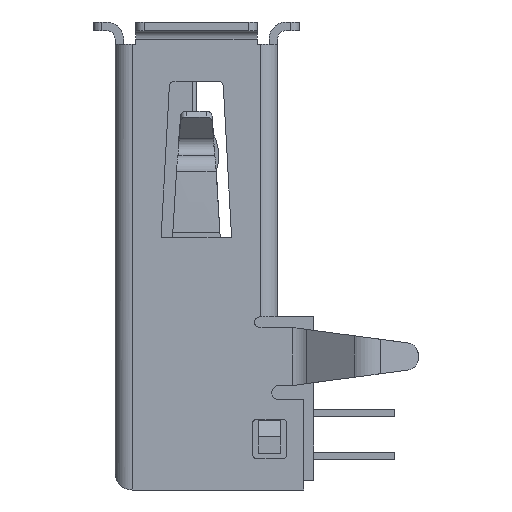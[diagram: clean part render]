
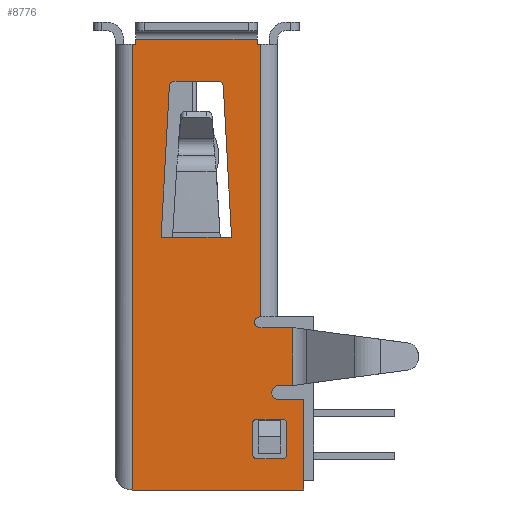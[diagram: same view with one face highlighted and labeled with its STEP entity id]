
A CAD part, left-side view. The second image highlights one B-rep face of the part: STEP entity #8776.
In plain terms, the highlighted planar face has unit normal (-1, 0, 0).
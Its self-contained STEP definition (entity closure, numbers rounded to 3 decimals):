
#459=DIRECTION('',(0.,1.,0.));
#460=VECTOR('',#459,0.401);
#461=CARTESIAN_POINT('',(-6.55,-1.241,-7.58));
#462=LINE('',#461,#460);
#463=DIRECTION('',(0.,-0.054,-0.999));
#464=VECTOR('',#463,5.319);
#465=CARTESIAN_POINT('',(-6.55,-0.951,-2.269));
#466=LINE('',#465,#464);
#467=CARTESIAN_POINT('',(-6.55,-0.751,-2.28));
#468=DIRECTION('',(1.,0.,0.));
#469=DIRECTION('',(0.,0.,1.));
#470=AXIS2_PLACEMENT_3D('',#467,#468,#469);
#472=DIRECTION('',(0.,-1.,0.));
#473=VECTOR('',#472,1.502);
#474=CARTESIAN_POINT('',(-6.55,0.751,-2.08));
#475=LINE('',#474,#473);
#476=CARTESIAN_POINT('',(-6.55,0.751,-2.28));
#477=DIRECTION('',(1.,0.,0.));
#478=DIRECTION('',(0.,0.999,0.054));
#479=AXIS2_PLACEMENT_3D('',#476,#477,#478);
#481=DIRECTION('',(0.,-0.054,0.999));
#482=VECTOR('',#481,5.319);
#483=CARTESIAN_POINT('',(-6.55,1.241,-7.58));
#484=LINE('',#483,#482);
#485=DIRECTION('',(0.,1.,0.));
#486=VECTOR('',#485,0.401);
#487=CARTESIAN_POINT('',(-6.55,0.84,-7.58));
#488=LINE('',#487,#486);
#489=DIRECTION('',(0.,1.,0.));
#490=VECTOR('',#489,1.68);
#491=CARTESIAN_POINT('',(-6.55,-0.84,-7.58));
#492=LINE('',#491,#490);
#493=CARTESIAN_POINT('',(-6.55,-3.03,-14.13));
#494=DIRECTION('',(-1.,0.,0.));
#495=DIRECTION('',(0.,-1.,0.));
#496=AXIS2_PLACEMENT_3D('',#493,#494,#495);
#498=DIRECTION('',(0.,1.,0.));
#499=VECTOR('',#498,0.9);
#500=CARTESIAN_POINT('',(-6.55,-3.03,-13.98));
#501=LINE('',#500,#499);
#502=CARTESIAN_POINT('',(-6.55,-2.13,-14.13));
#503=DIRECTION('',(-1.,0.,0.));
#504=DIRECTION('',(0.,0.,1.));
#505=AXIS2_PLACEMENT_3D('',#502,#503,#504);
#507=DIRECTION('',(0.,0.,-1.));
#508=VECTOR('',#507,1.1);
#509=CARTESIAN_POINT('',(-6.55,-1.98,-14.13));
#510=LINE('',#509,#508);
#511=CARTESIAN_POINT('',(-6.55,-2.13,-15.23));
#512=DIRECTION('',(-1.,0.,0.));
#513=DIRECTION('',(0.,1.,0.));
#514=AXIS2_PLACEMENT_3D('',#511,#512,#513);
#516=DIRECTION('',(0.,-1.,0.));
#517=VECTOR('',#516,0.9);
#518=CARTESIAN_POINT('',(-6.55,-2.13,-15.38));
#519=LINE('',#518,#517);
#520=CARTESIAN_POINT('',(-6.55,-3.03,-15.23));
#521=DIRECTION('',(-1.,0.,0.));
#522=DIRECTION('',(0.,0.,-1.));
#523=AXIS2_PLACEMENT_3D('',#520,#521,#522);
#525=DIRECTION('',(0.,0.,1.));
#526=VECTOR('',#525,1.1);
#527=CARTESIAN_POINT('',(-6.55,-3.18,-15.23));
#528=LINE('',#527,#526);
#529=DIRECTION('',(0.,0.,-1.));
#530=VECTOR('',#529,15.7);
#531=CARTESIAN_POINT('',(-6.55,2.26,-0.78));
#532=LINE('',#531,#530);
#533=DIRECTION('',(0.,1.,0.));
#534=VECTOR('',#533,0.12);
#535=CARTESIAN_POINT('',(-6.55,2.14,-0.78));
#536=LINE('',#535,#534);
#537=DIRECTION('',(0.,0.,-1.));
#538=VECTOR('',#537,0.18);
#539=CARTESIAN_POINT('',(-6.55,2.14,-0.6));
#540=LINE('',#539,#538);
#541=DIRECTION('',(0.,-1.,0.));
#542=VECTOR('',#541,4.28);
#543=CARTESIAN_POINT('',(-6.55,2.14,-0.6));
#544=LINE('',#543,#542);
#545=DIRECTION('',(0.,0.,-1.));
#546=VECTOR('',#545,0.18);
#547=CARTESIAN_POINT('',(-6.55,-2.14,-0.6));
#548=LINE('',#547,#546);
#549=DIRECTION('',(0.,1.,0.));
#550=VECTOR('',#549,0.12);
#551=CARTESIAN_POINT('',(-6.55,-2.26,-0.78));
#552=LINE('',#551,#550);
#553=DIRECTION('',(0.,0.,1.));
#554=VECTOR('',#553,9.6);
#555=CARTESIAN_POINT('',(-6.55,-2.26,-10.38));
#556=LINE('',#555,#554);
#557=DIRECTION('',(0.,1.,0.));
#558=VECTOR('',#557,0.02);
#559=CARTESIAN_POINT('',(-6.55,-2.26,-10.38));
#560=LINE('',#559,#558);
#561=CARTESIAN_POINT('',(-6.55,-2.24,-10.57));
#562=DIRECTION('',(-1.,0.,0.));
#563=DIRECTION('',(0.,0.,1.));
#564=AXIS2_PLACEMENT_3D('',#561,#562,#563);
#566=DIRECTION('',(0.,0.,1.));
#567=VECTOR('',#566,2.04);
#568=CARTESIAN_POINT('',(-6.55,-3.4,-12.8));
#569=LINE('',#568,#567);
#570=DIRECTION('',(0.,1.,0.));
#571=VECTOR('',#570,0.5);
#572=CARTESIAN_POINT('',(-6.55,-3.4,-12.8));
#573=LINE('',#572,#571);
#574=CARTESIAN_POINT('',(-6.55,-2.9,-13.05));
#575=DIRECTION('',(-1.,0.,0.));
#576=DIRECTION('',(0.,0.,1.));
#577=AXIS2_PLACEMENT_3D('',#574,#575,#576);
#579=DIRECTION('',(0.,1.,0.));
#580=VECTOR('',#579,0.88);
#581=CARTESIAN_POINT('',(-6.55,-3.78,-13.3));
#582=LINE('',#581,#580);
#583=DIRECTION('',(0.,0.,-1.));
#584=VECTOR('',#583,3.18);
#585=CARTESIAN_POINT('',(-6.55,-3.78,-13.3));
#586=LINE('',#585,#584);
#2824=CARTESIAN_POINT('',(-6.55,-3.4,-10.76));
#2830=CARTESIAN_POINT('',(-6.55,-3.4,-12.8));
#2836=DIRECTION('',(0.,1.,0.));
#2837=VECTOR('',#2836,1.16);
#2838=CARTESIAN_POINT('',(-6.55,-3.4,-10.76));
#2839=LINE('',#2838,#2837);
#3847=DIRECTION('',(0.,1.,0.));
#3848=VECTOR('',#3847,6.04);
#3849=CARTESIAN_POINT('',(-6.55,-3.78,-16.48));
#3850=LINE('',#3849,#3848);
#6837=CARTESIAN_POINT('',(-6.55,2.14,-0.78));
#6838=VERTEX_POINT('',#6837);
#6839=CARTESIAN_POINT('',(-6.55,-2.14,-0.78));
#6840=VERTEX_POINT('',#6839);
#6927=CARTESIAN_POINT('',(-6.55,2.14,-0.6));
#6928=VERTEX_POINT('',#6927);
#6929=CARTESIAN_POINT('',(-6.55,-2.14,-0.6));
#6930=VERTEX_POINT('',#6929);
#6967=CARTESIAN_POINT('',(-6.55,1.241,-7.58));
#6968=CARTESIAN_POINT('',(-6.55,0.951,-2.269));
#6969=VERTEX_POINT('',#6967);
#6970=VERTEX_POINT('',#6968);
#6971=CARTESIAN_POINT('',(-6.55,0.751,-2.08));
#6972=VERTEX_POINT('',#6971);
#6973=CARTESIAN_POINT('',(-6.55,-0.751,-2.08));
#6974=VERTEX_POINT('',#6973);
#6975=CARTESIAN_POINT('',(-6.55,-0.951,-2.269));
#6976=CARTESIAN_POINT('',(-6.55,-1.241,-7.58));
#6977=VERTEX_POINT('',#6975);
#6978=VERTEX_POINT('',#6976);
#7047=CARTESIAN_POINT('',(-6.55,-0.84,-7.58));
#7048=VERTEX_POINT('',#7047);
#7049=CARTESIAN_POINT('',(-6.55,0.84,-7.58));
#7050=VERTEX_POINT('',#7049);
#7091=CARTESIAN_POINT('',(-6.55,2.26,-0.78));
#7092=VERTEX_POINT('',#7091);
#7093=CARTESIAN_POINT('',(-6.55,2.26,-16.48));
#7094=VERTEX_POINT('',#7093);
#7095=CARTESIAN_POINT('',(-6.55,-2.26,-0.78));
#7097=VERTEX_POINT('',#7095);
#7101=CARTESIAN_POINT('',(-6.55,-2.26,-10.38));
#7102=VERTEX_POINT('',#7101);
#7143=CARTESIAN_POINT('',(-6.55,-3.18,-14.13));
#7144=CARTESIAN_POINT('',(-6.55,-3.03,-13.98));
#7145=VERTEX_POINT('',#7143);
#7146=VERTEX_POINT('',#7144);
#7147=CARTESIAN_POINT('',(-6.55,-2.13,-13.98));
#7148=VERTEX_POINT('',#7147);
#7149=CARTESIAN_POINT('',(-6.55,-1.98,-14.13));
#7150=VERTEX_POINT('',#7149);
#7151=CARTESIAN_POINT('',(-6.55,-1.98,-15.23));
#7152=VERTEX_POINT('',#7151);
#7153=CARTESIAN_POINT('',(-6.55,-2.13,-15.38));
#7154=VERTEX_POINT('',#7153);
#7155=CARTESIAN_POINT('',(-6.55,-3.03,-15.38));
#7156=VERTEX_POINT('',#7155);
#7157=CARTESIAN_POINT('',(-6.55,-3.18,-15.23));
#7158=VERTEX_POINT('',#7157);
#7377=CARTESIAN_POINT('',(-6.55,-3.78,-16.48));
#7379=VERTEX_POINT('',#7377);
#7735=VERTEX_POINT('',#2824);
#7737=VERTEX_POINT('',#2830);
#8028=CARTESIAN_POINT('',(-6.55,-2.9,-12.8));
#8029=CARTESIAN_POINT('',(-6.55,-2.9,-13.3));
#8030=VERTEX_POINT('',#8028);
#8031=VERTEX_POINT('',#8029);
#8032=CARTESIAN_POINT('',(-6.55,-3.78,-13.3));
#8033=VERTEX_POINT('',#8032);
#8086=CARTESIAN_POINT('',(-6.55,-2.24,-10.38));
#8087=CARTESIAN_POINT('',(-6.55,-2.24,-10.76));
#8088=VERTEX_POINT('',#8086);
#8089=VERTEX_POINT('',#8087);
#8704=CARTESIAN_POINT('',(-6.55,0.,0.));
#8705=DIRECTION('',(1.,0.,0.));
#8706=DIRECTION('',(0.,0.,-1.));
#8707=AXIS2_PLACEMENT_3D('',#8704,#8705,#8706);
#8708=PLANE('',#8707);
#8709=ORIENTED_EDGE('',*,*,#8697,.F.);
#8710=ORIENTED_EDGE('',*,*,#8619,.F.);
#8712=ORIENTED_EDGE('',*,*,#8711,.F.);
#8714=ORIENTED_EDGE('',*,*,#8713,.T.);
#8716=ORIENTED_EDGE('',*,*,#8715,.T.);
#8717=ORIENTED_EDGE('',*,*,#8631,.F.);
#8719=ORIENTED_EDGE('',*,*,#8718,.F.);
#8721=ORIENTED_EDGE('',*,*,#8720,.T.);
#8723=ORIENTED_EDGE('',*,*,#8722,.T.);
#8725=ORIENTED_EDGE('',*,*,#8724,.F.);
#8727=ORIENTED_EDGE('',*,*,#8726,.F.);
#8729=ORIENTED_EDGE('',*,*,#8728,.T.);
#8731=ORIENTED_EDGE('',*,*,#8730,.T.);
#8733=ORIENTED_EDGE('',*,*,#8732,.F.);
#8735=ORIENTED_EDGE('',*,*,#8734,.T.);
#8737=ORIENTED_EDGE('',*,*,#8736,.T.);
#8738=EDGE_LOOP('',(#8709,#8710,#8712,#8714,#8716,#8717,#8719,#8721,#8723,#8725,
#8727,#8729,#8731,#8733,#8735,#8737));
#8739=FACE_OUTER_BOUND('',#8738,.F.);
#8741=ORIENTED_EDGE('',*,*,#8740,.T.);
#8743=ORIENTED_EDGE('',*,*,#8742,.T.);
#8745=ORIENTED_EDGE('',*,*,#8744,.T.);
#8747=ORIENTED_EDGE('',*,*,#8746,.T.);
#8749=ORIENTED_EDGE('',*,*,#8748,.T.);
#8751=ORIENTED_EDGE('',*,*,#8750,.T.);
#8753=ORIENTED_EDGE('',*,*,#8752,.T.);
#8755=ORIENTED_EDGE('',*,*,#8754,.T.);
#8756=EDGE_LOOP('',(#8741,#8743,#8745,#8747,#8749,#8751,#8753,#8755));
#8757=FACE_BOUND('',#8756,.F.);
#8759=ORIENTED_EDGE('',*,*,#8758,.F.);
#8761=ORIENTED_EDGE('',*,*,#8760,.F.);
#8763=ORIENTED_EDGE('',*,*,#8762,.F.);
#8765=ORIENTED_EDGE('',*,*,#8764,.F.);
#8767=ORIENTED_EDGE('',*,*,#8766,.F.);
#8769=ORIENTED_EDGE('',*,*,#8768,.F.);
#8771=ORIENTED_EDGE('',*,*,#8770,.F.);
#8773=ORIENTED_EDGE('',*,*,#8772,.F.);
#8774=EDGE_LOOP('',(#8759,#8761,#8763,#8765,#8767,#8769,#8771,#8773));
#8775=FACE_BOUND('',#8774,.F.);
#471=CIRCLE('',#470,0.2);
#480=CIRCLE('',#479,0.2);
#497=CIRCLE('',#496,0.15);
#506=CIRCLE('',#505,0.15);
#515=CIRCLE('',#514,0.15);
#524=CIRCLE('',#523,0.15);
#565=CIRCLE('',#564,0.19);
#578=CIRCLE('',#577,0.25);
#8619=EDGE_CURVE('',#6838,#7092,#536,.T.);
#8631=EDGE_CURVE('',#7097,#6840,#552,.T.);
#8697=EDGE_CURVE('',#7092,#7094,#532,.T.);
#8711=EDGE_CURVE('',#6928,#6838,#540,.T.);
#8713=EDGE_CURVE('',#6928,#6930,#544,.T.);
#8715=EDGE_CURVE('',#6930,#6840,#548,.T.);
#8718=EDGE_CURVE('',#7102,#7097,#556,.T.);
#8720=EDGE_CURVE('',#7102,#8088,#560,.T.);
#8722=EDGE_CURVE('',#8088,#8089,#565,.T.);
#8724=EDGE_CURVE('',#7735,#8089,#2839,.T.);
#8726=EDGE_CURVE('',#7737,#7735,#569,.T.);
#8728=EDGE_CURVE('',#7737,#8030,#573,.T.);
#8730=EDGE_CURVE('',#8030,#8031,#578,.T.);
#8732=EDGE_CURVE('',#8033,#8031,#582,.T.);
#8734=EDGE_CURVE('',#8033,#7379,#586,.T.);
#8736=EDGE_CURVE('',#7379,#7094,#3850,.T.);
#8740=EDGE_CURVE('',#7145,#7146,#497,.T.);
#8742=EDGE_CURVE('',#7146,#7148,#501,.T.);
#8744=EDGE_CURVE('',#7148,#7150,#506,.T.);
#8746=EDGE_CURVE('',#7150,#7152,#510,.T.);
#8748=EDGE_CURVE('',#7152,#7154,#515,.T.);
#8750=EDGE_CURVE('',#7154,#7156,#519,.T.);
#8752=EDGE_CURVE('',#7156,#7158,#524,.T.);
#8754=EDGE_CURVE('',#7158,#7145,#528,.T.);
#8758=EDGE_CURVE('',#6978,#7048,#462,.T.);
#8760=EDGE_CURVE('',#6977,#6978,#466,.T.);
#8762=EDGE_CURVE('',#6974,#6977,#471,.T.);
#8764=EDGE_CURVE('',#6972,#6974,#475,.T.);
#8766=EDGE_CURVE('',#6970,#6972,#480,.T.);
#8768=EDGE_CURVE('',#6969,#6970,#484,.T.);
#8770=EDGE_CURVE('',#7050,#6969,#488,.T.);
#8772=EDGE_CURVE('',#7048,#7050,#492,.T.);
#8776=ADVANCED_FACE('',(#8739,#8757,#8775),#8708,.F.);
